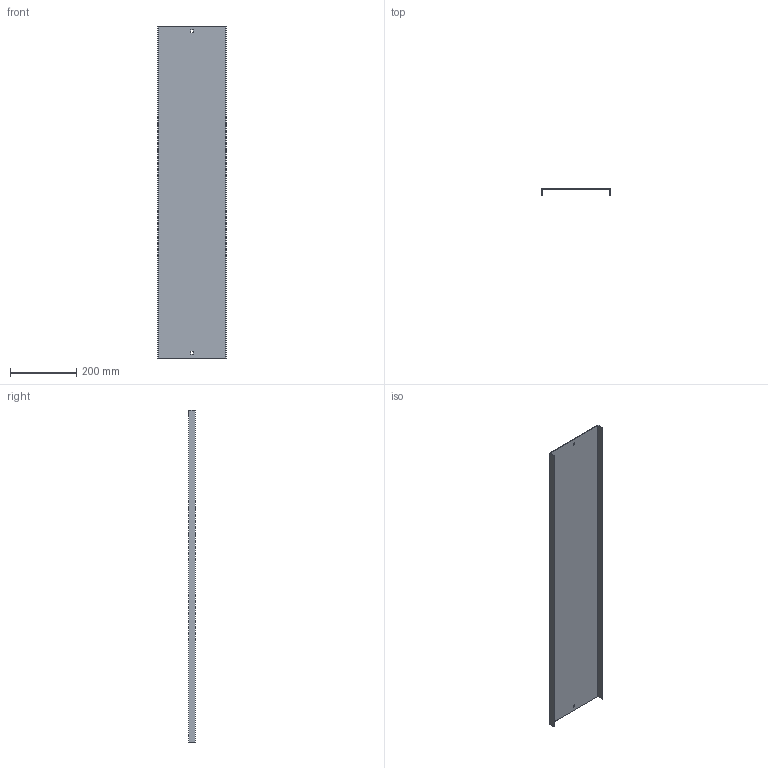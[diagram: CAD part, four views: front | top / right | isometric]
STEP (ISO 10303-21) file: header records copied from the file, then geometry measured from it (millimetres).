
FILE_DESCRIPTION (( 'STEP AP214' ), '1' );
FILE_NAME ('05G1R200.step', '2025-02-21T13:06:46', ( '' ), ( '' ), 'SwSTEP 2.0', 'SolidWorks 2023', '' );
FILE_SCHEMA (( 'AUTOMOTIVE_DESIGN' ));
Length unit declared in the file: millimetre
Products named in the file (1): 05G1R200
Bounding box: 207 x 20 x 1000 mm (x, y, z)
Volume: 365824.5 mm3; surface area: 491591 mm2
Topology: 1 solids, 1 shells, 18 faces, 48 edges, 32 vertices
Faces by surface type: plane 18
Entity records: 583 total; most frequent: CARTESIAN_POINT 99, ORIENTED_EDGE 96, DIRECTION 86, VECTOR 48, LINE 48, EDGE_CURVE 48, VERTEX_POINT 32, EDGE_LOOP 22
